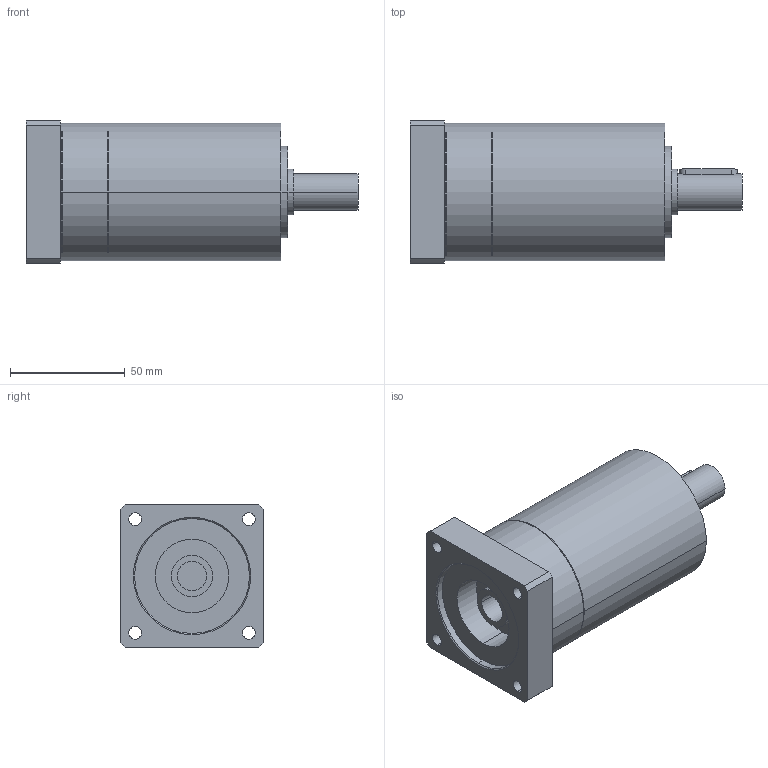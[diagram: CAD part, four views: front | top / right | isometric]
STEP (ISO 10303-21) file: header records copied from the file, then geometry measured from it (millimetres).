
FILE_DESCRIPTION(('CoCreate Modeling STEP Export'),'2;1');
FILE_NAME('GPR75_ig-9-12-16-20-24-30-36_16_B14_12.7_P23.stp','2014-08-25T16:01:56',(''),(''),'CoCreate Modeling STEP processor for AP214 (Solid Model)','CoCreate Modeling 16.00C 25-Feb-2009 (C) Parametric Technology GmbH','');
FILE_SCHEMA(('AUTOMOTIVE_DESIGN { 1 0 10303 214 1 1 1 1 }'));
Length unit declared in the file: millimetre
Products named in the file (2): GPR75_ig-9-12-16-20-24-30-36_16_B14_12.7_P23
Assembly tree (1 placements, depth 2):
  GPR75_ig-9-12-16-20-24-30-36_16_B14_12.7_P23
    GPR75_ig-9-12-16-20-24-30-36_16_B14_12.7_P23
Bounding box: 144.4 x 62 x 62 mm (x, y, z)
Volume: 318228.5 mm3; surface area: 36494.9 mm2
Topology: 1 solids, 1 shells, 75 faces, 195 edges, 135 vertices
Faces by surface type: cylinder 44, plane 23, cone 8
Entity records: 2029 total; most frequent: ORIENTED_EDGE 386, CARTESIAN_POINT 373, DIRECTION 278, EDGE_CURVE 193, VERTEX_POINT 135, AXIS2_PLACEMENT_3D 104, EDGE_LOOP 98, FACE_OUTER_BOUND 75
